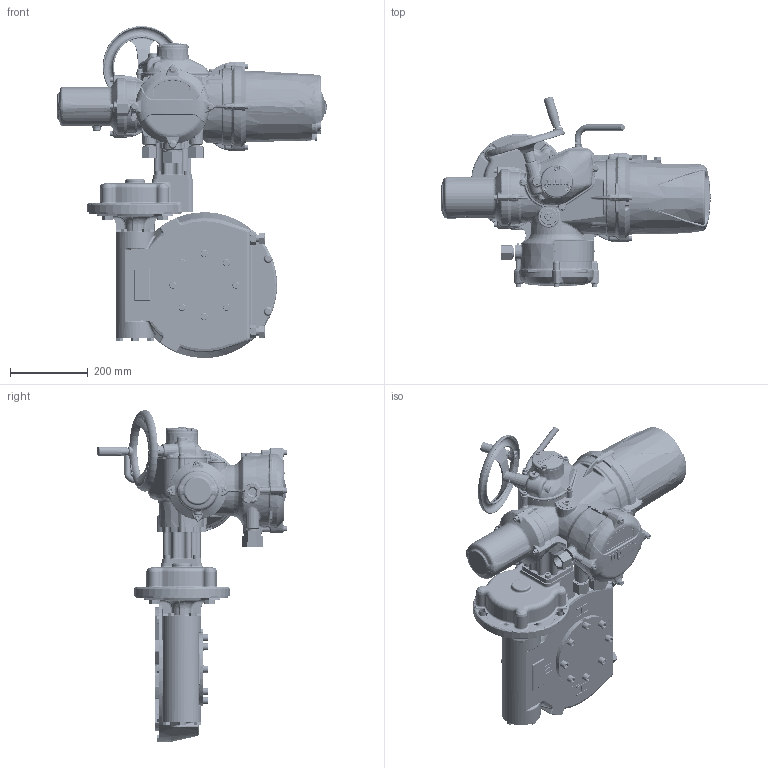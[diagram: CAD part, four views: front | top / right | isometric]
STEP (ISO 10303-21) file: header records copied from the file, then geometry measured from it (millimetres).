
FILE_DESCRIPTION( ( 'Unknown' ), '1' );
FILE_NAME( 'S:/DocsUnderChange/DrawingsFromMTMS/InstallationDrgs/Standardised drawings/IQ3/IWD/II1SHWIWD6RHSTD-1.stp', 'Unknown', ( 'Unknown' ), ( 'Unknown' ), 'PSStep 17.0.49', 'Unknown', ' ' );
FILE_SCHEMA( ( 'AUTOMOTIVE_DESIGN { 1 0 10303 214 1 1 1 1 }' ) );
Length unit declared in the file: millimetre
Products named in the file (9): II0-20LONG-std
Bounding box: 692.3 x 489.76 x 853.93 mm (x, y, z)
Volume: 92514.1 mm3; surface area: 1503072.9 mm2
Topology: 77 solids, 78 shells, 8313 faces, 21072 edges, 12703 vertices
Faces by surface type: plane 2920, bspline 2316, cylinder 1238, cone 784, torus 720, sphere 176, extrusion 123, revolution 21, offset 15
Full cylindrical faces by diameter (mm): 0.2 x1, 1.152 x1, 3 x10, 4.753 x1, 4.773 x1, 6 x8, 6.2 x3, 6.4 x1, 6.45 x5, 6.47 x5, 6.5 x1, 6.75 x1, 7 x4, 7.6 x4, 8 x14, 8.1 x1, 8.2 x1, 8.5 x8, 9.7 x2, 10 x21, 10.5 x24, 11 x4, 11.78 x1, 12 x9, 12.1 x1, 12.5 x8, 13 x28, 13.25 x4, 15.5 x1, 16 x20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
Entity records: 722902 total; most frequent: CARTESIAN_POINT 482164, ORIENTED_EDGE 39706, DIRECTION 30919, EDGE_CURVE 19853, AXIS2_PLACEMENT_3D 12528, VERTEX_POINT 12349, EDGE_LOOP 9188, FACE_OUTER_BOUND 8649
